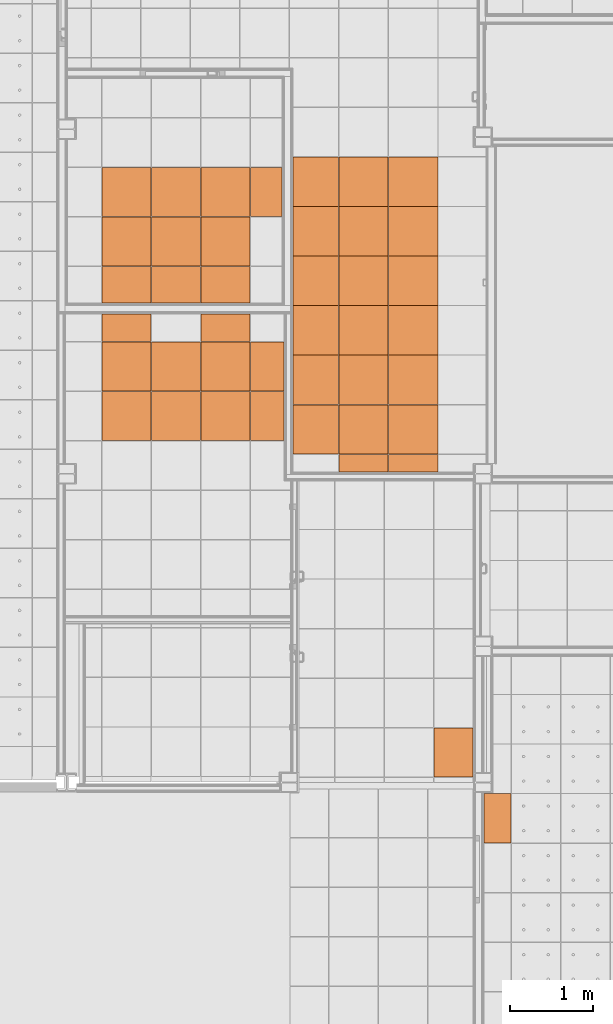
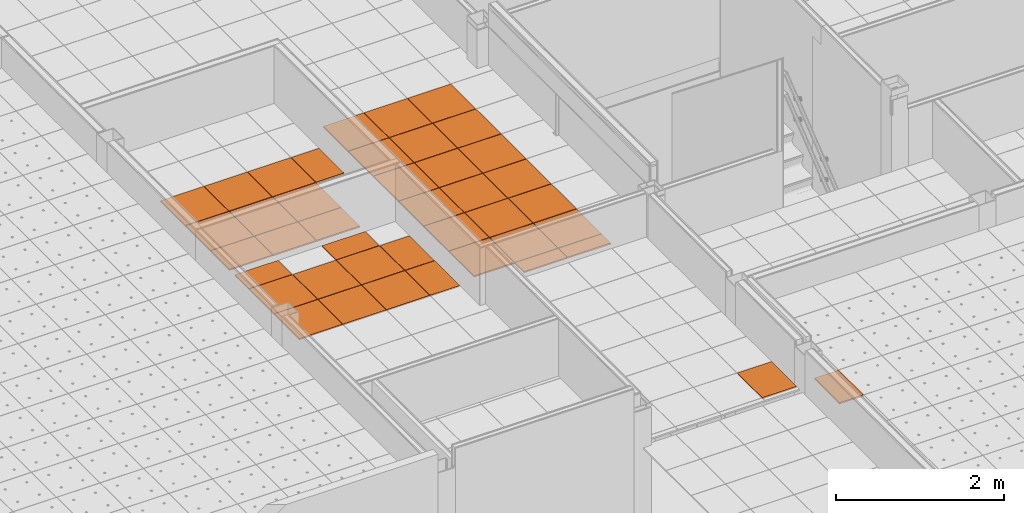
# One storey, part 255 of 338: 42 proxies, 5 elements without a shape of their own.
"""IFC2X3 building model written with IfcOpenShell, lengths in millimetres."""

from ifc_helpers import new_model, entity, si_unit, converted_unit, derived_unit, money_unit, direction, frame, origin_with_axes, place, context, subcontext, project, spatial, faceted_brep, source, transform, mapped, material, type_object, type_shapes, element, aggregate, save


model = new_model("IFC2X3")

# Units and contexts
model_context = context("Model", 3, precision=0.01, world=origin_with_axes(), true_north=direction((0.0, 1.0)))
plan_context = context("Plan", 3, precision=0.01, world=origin_with_axes(), true_north=direction((0.0, 1.0)))
body_context = subcontext(model_context, "Body", "Model", "MODEL_VIEW")
ifc_project = project(units=[si_unit("LENGTHUNIT", "METRE", prefix="MILLI"), si_unit("AREAUNIT", "SQUARE_METRE"), si_unit("VOLUMEUNIT", "CUBIC_METRE"), converted_unit("PLANEANGLEUNIT", "DEGREE", entity("IfcPlaneAngleMeasure", 0.0174532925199), si_unit("PLANEANGLEUNIT", "RADIAN"), dimensions=[0, 0, 0, 0, 0, 0, 0]), money_unit("EUR"), converted_unit("TIMEUNIT", "Year", entity("IfcTimeMeasure", 31556926.0), si_unit("TIMEUNIT", "SECOND"), dimensions=[0, 0, 1, 0, 0, 0, 0]), si_unit("MASSUNIT", "GRAM", prefix="KILO"), si_unit("THERMODYNAMICTEMPERATUREUNIT", "DEGREE_CELSIUS"), si_unit("LUMINOUSINTENSITYUNIT", "LUMEN"), si_unit("ENERGYUNIT", "JOULE", prefix="MEGA"), derived_unit("THERMALCONDUCTANCEUNIT", [(si_unit("POWERUNIT", "WATT"), 1), (si_unit("LENGTHUNIT", "METRE"), -1), (si_unit("THERMODYNAMICTEMPERATUREUNIT", "KELVIN"), -1)]), derived_unit("SPECIFICHEATCAPACITYUNIT", [(si_unit("ENERGYUNIT", "JOULE"), 1), (si_unit("MASSUNIT", "GRAM", prefix="KILO"), -1), (si_unit("THERMODYNAMICTEMPERATUREUNIT", "KELVIN"), -1)]), derived_unit("MASSDENSITYUNIT", [(si_unit("MASSUNIT", "GRAM", prefix="KILO"), 1), (si_unit("VOLUMEUNIT", "CUBIC_METRE"), -1)])], contexts=[model_context, plan_context])

# Site, building, storey
site_placement = place(None, origin_with_axes())
site = spatial("IfcSite", under=ifc_project, at=site_placement, Name="Fortuinstraat Woensdrecht", CompositionType="ELEMENT")
building_placement = place(site_placement, origin_with_axes())
building = spatial("IfcBuilding", under=site, at=building_placement, Name="IKC Fortuna", CompositionType="ELEMENT")
storey_placement = place(building_placement, origin_with_axes())
storey = spatial("IfcBuildingStorey", under=building, at=storey_placement, Name="00 begane grond", CompositionType="ELEMENT", Elevation=0.0)

# Covering, proxies
covering_type = type_object("IfcCoveringType", Name="Curtain Wall Type", PredefinedType="CEILING")
covering_1_placement = place(storey_placement, frame((20708.834778, 24017.7308613, 2810.0), z_axis=(0.0, 0.0, 1.0), x_axis=(1.0, 0.0, 0.0)))
covering_1 = element("IfcCovering", 1, at=covering_1_placement, inside=storey, type_object=covering_type, Name="45_Plafondafwerking_P02", PredefinedType="CEILING")
ifc_material = material(Name="Gipsplaat")
building_element_proxy_type_1 = type_object("IfcBuildingElementProxyType", Name="Distinct Panel 600 x 600 x 20", PredefinedType="NOTDEFINED")
shared_shape_1 = source(origin_with_axes(), body_context, "Body", "Brep", [
    faceted_brep([(2.49999999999, 2.5, -10.0), (597.5, 2.49999999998, -10.0), (597.5, 2.49999999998, 10.0), (2.49999999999, 2.5, 10.0), (2.50000000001, 597.5, -10.0), (597.5, 597.5, -10.0), (597.5, 597.5, 10.0), (2.50000000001, 597.5, 10.0)], [[[0, 1, 2, 3]], [[0, 4, 5, 1]], [[1, 5, 6, 2]], [[3, 2, 6, 7]], [[4, 0, 3, 7]], [[5, 4, 7, 6]]]),
])
proxy_1_placement = place(covering_1_placement, frame((1185.69944934, -679.565768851, 0.0), z_axis=(0.0, 0.0, 1.0), x_axis=(1.0, 0.0, 0.0)))
proxy_1 = element("IfcBuildingElementProxy", 2, at=proxy_1_placement, type_object=building_element_proxy_type_1, material=ifc_material, Name="__Panel-D", context=body_context, shape_type="MappedRepresentation", body=[
    mapped(shared_shape_1, transform((300.0, 300.0, 0.0), x_axis=(-1.0, 0.0, 0.0), y_axis=(0.0, -1.0, 0.0), z_axis=(0.0, 0.0, 1.0))),
])
proxy_2_placement = place(covering_1_placement, frame((585.699449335, -679.565768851, 0.0), z_axis=(0.0, 0.0, 1.0), x_axis=(1.0, 0.0, 0.0)))
proxy_2 = element("IfcBuildingElementProxy", 3, at=proxy_2_placement, type_object=building_element_proxy_type_1, material=ifc_material, Name="__Panel-D", context=body_context, shape_type="MappedRepresentation", body=[
    mapped(shared_shape_1, transform((300.0, 300.0, 0.0), x_axis=(-1.0, 0.0, 0.0), y_axis=(0.0, -1.0, 0.0), z_axis=(0.0, 0.0, 1.0))),
])
proxy_3_placement = place(covering_1_placement, frame((1185.69944934, -1279.56576885, 0.0), z_axis=(0.0, 0.0, 1.0), x_axis=(1.0, 0.0, 0.0)))
proxy_3 = element("IfcBuildingElementProxy", 4, at=proxy_3_placement, type_object=building_element_proxy_type_1, material=ifc_material, Name="__Panel-D", context=body_context, shape_type="MappedRepresentation", body=[
    mapped(shared_shape_1, transform((300.0, 300.0, 0.0), x_axis=(-1.0, 0.0, 0.0), y_axis=(0.0, -1.0, 0.0), z_axis=(0.0, 0.0, 1.0))),
])

covering_2_placement = place(storey_placement, frame((21294.5342274, 19421.5253195, 2810.0), z_axis=(0.0, 0.0, 1.0), x_axis=(1.0, 0.0, 0.0)))
covering_2 = element("IfcCovering", 5, at=covering_2_placement, inside=storey, type_object=covering_type, Name="45_Plafondafwerking_P02", PredefinedType="CEILING")
proxy_4_placement = place(covering_2_placement, frame((0.0, 1800.0, 0.0), z_axis=(0.0, 0.0, 1.0), x_axis=(1.0, 0.0, 0.0)))
proxy_4 = element("IfcBuildingElementProxy", 6, at=proxy_4_placement, type_object=building_element_proxy_type_1, material=ifc_material, Name="__Panel-D", context=body_context, shape_type="MappedRepresentation", body=[
    mapped(shared_shape_1, transform((300.0, 300.0, 0.0), x_axis=(-1.0, 0.0, 0.0), y_axis=(0.0, -1.0, 0.0), z_axis=(0.0, 0.0, 1.0))),
])
proxy_5_placement = place(covering_2_placement, frame((600.0, 1200.0, 0.0), z_axis=(0.0, 0.0, 1.0), x_axis=(1.0, 0.0, 0.0)))
proxy_5 = element("IfcBuildingElementProxy", 7, at=proxy_5_placement, type_object=building_element_proxy_type_1, material=ifc_material, Name="__Panel-D", context=body_context, shape_type="MappedRepresentation", body=[
    mapped(shared_shape_1, transform((300.0, 300.0, 0.0), x_axis=(-1.0, 0.0, 0.0), y_axis=(0.0, -1.0, 0.0), z_axis=(0.0, 0.0, 1.0))),
])
proxy_6_placement = place(covering_2_placement, frame((0.0, 1200.0, 0.0), z_axis=(0.0, 0.0, 1.0), x_axis=(1.0, 0.0, 0.0)))
proxy_6 = element("IfcBuildingElementProxy", 8, at=proxy_6_placement, type_object=building_element_proxy_type_1, material=ifc_material, Name="__Panel-D", context=body_context, shape_type="MappedRepresentation", body=[
    mapped(shared_shape_1, transform((300.0, 300.0, 0.0), x_axis=(-1.0, 0.0, 0.0), y_axis=(0.0, -1.0, 0.0), z_axis=(0.0, 0.0, 1.0))),
])
proxy_7_placement = place(covering_2_placement, frame((1200.0, 1800.0, 0.0), z_axis=(0.0, 0.0, 1.0), x_axis=(1.0, 0.0, 0.0)))
proxy_7 = element("IfcBuildingElementProxy", 9, at=proxy_7_placement, type_object=building_element_proxy_type_1, material=ifc_material, Name="__Panel-D", context=body_context, shape_type="MappedRepresentation", body=[
    mapped(shared_shape_1, transform((300.0, 300.0, 0.0), x_axis=(-1.0, 0.0, 0.0), y_axis=(0.0, -1.0, 0.0), z_axis=(0.0, 0.0, 1.0))),
])
proxy_8_placement = place(covering_2_placement, frame((600.0, 1800.0, 0.0), z_axis=(0.0, 0.0, 1.0), x_axis=(1.0, 0.0, 0.0)))
proxy_8 = element("IfcBuildingElementProxy", 10, at=proxy_8_placement, type_object=building_element_proxy_type_1, material=ifc_material, Name="__Panel-D", context=body_context, shape_type="MappedRepresentation", body=[
    mapped(shared_shape_1, transform((300.0, 300.0, 0.0), x_axis=(-1.0, 0.0, 0.0), y_axis=(0.0, -1.0, 0.0), z_axis=(0.0, 0.0, 1.0))),
])

# Proxy
shared_shape_2 = source(origin_with_axes(), body_context, "Body", "Brep", [
    faceted_brep([(2.5000069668, 2.4999963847, -10.0), (597.499995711, 2.50000275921, -10.0), (597.499995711, 2.50000275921, 10.0), (2.5000069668, 2.4999963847, 10.0), (2.50000214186, 597.499967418, -10.0), (597.499990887, 597.499973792, -10.0), (597.499990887, 597.499973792, 10.0), (2.50000214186, 597.499967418, 10.0)], [[[0, 1, 2, 3]], [[0, 4, 5, 1]], [[1, 5, 6, 2]], [[3, 2, 6, 7]], [[4, 0, 3, 7]], [[5, 4, 7, 6]]]),
])
proxy_9_placement = place(covering_1_placement, frame((585.699449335, -1279.56576885, 0.0), z_axis=(0.0, 0.0, 1.0), x_axis=(1.0, 0.0, 0.0)))
proxy_9 = element("IfcBuildingElementProxy", 11, at=proxy_9_placement, type_object=building_element_proxy_type_1, material=ifc_material, Name="__Panel-D", context=body_context, shape_type="MappedRepresentation", body=[
    mapped(shared_shape_2, transform((300.0, 300.0, 0.0), x_axis=(-1.0, 0.0, 0.0), y_axis=(0.0, -1.0, 0.0), z_axis=(0.0, 0.0, 1.0))),
])

proxy_10_placement = place(covering_1_placement, frame((1785.69944934, -1279.56576885, 0.0), z_axis=(0.0, 0.0, 1.0), x_axis=(1.0, 0.0, 0.0)))
proxy_10 = element("IfcBuildingElementProxy", 12, at=proxy_10_placement, type_object=building_element_proxy_type_1, material=ifc_material, Name="__Panel-D", context=body_context, shape_type="MappedRepresentation", body=[
    mapped(shared_shape_2, transform((300.0, 300.0, 0.0), x_axis=(-1.0, 0.0, 0.0), y_axis=(0.0, -1.0, 0.0), z_axis=(0.0, 0.0, 1.0))),
])

proxy_11_placement = place(covering_1_placement, frame((1785.69944934, -679.565768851, 0.0), z_axis=(0.0, 0.0, 1.0), x_axis=(1.0, 0.0, 0.0)))
proxy_11 = element("IfcBuildingElementProxy", 13, at=proxy_11_placement, type_object=building_element_proxy_type_1, material=ifc_material, Name="__Panel-D", context=body_context, shape_type="MappedRepresentation", body=[
    mapped(shared_shape_2, transform((300.0, 300.0, 0.0), x_axis=(-1.0, 0.0, 0.0), y_axis=(0.0, -1.0, 0.0), z_axis=(0.0, 0.0, 1.0))),
])

proxy_12_placement = place(covering_2_placement, frame((1200.0, 1200.0, 0.0), z_axis=(0.0, 0.0, 1.0), x_axis=(1.0, 0.0, 0.0)))
proxy_12 = element("IfcBuildingElementProxy", 14, at=proxy_12_placement, type_object=building_element_proxy_type_1, material=ifc_material, Name="__Panel-D", context=body_context, shape_type="MappedRepresentation", body=[
    mapped(shared_shape_2, transform((300.0, 300.0, 0.0), x_axis=(-1.0, 0.0, 0.0), y_axis=(0.0, -1.0, 0.0), z_axis=(0.0, 0.0, 1.0))),
])

# Covering, proxies
covering_3_placement = place(storey_placement, frame((21169.4446171, 27661.0834994, 3010.0), z_axis=(0.0, 0.0, 1.0), x_axis=(1.0, 0.0, 0.0)))
covering_3 = element("IfcCovering", 15, at=covering_3_placement, inside=storey, type_object=covering_type, Name="45_Plafondafwerking_P04", PredefinedType="CEILING")
shared_shape_3 = source(origin_with_axes(), body_context, "Body", "Brep", [
    faceted_brep([(-2.49999999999, 2.5, -10.0), (-2.49999999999, 2.5, 10.0), (-597.5, 2.49999999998, 10.0), (-597.5, 2.49999999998, -10.0), (-2.50000000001, 597.5, -10.0), (-2.50000000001, 597.5, 10.0), (-597.5, 597.5, 10.0), (-597.5, 597.5, -10.0)], [[[0, 1, 2, 3]], [[4, 5, 1, 0]], [[1, 5, 6, 2]], [[3, 2, 6, 7]], [[0, 3, 7, 4]], [[7, 6, 5, 4]]]),
])
type_shapes(building_element_proxy_type_1, [shared_shape_1, shared_shape_2, shared_shape_3])
proxy_13_placement = place(covering_3_placement, frame((3600.0, -6000.0, 1.36335387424e-10), z_axis=(0.0, 0.0, 1.0), x_axis=(1.0, 0.0, 0.0)))
proxy_13 = element("IfcBuildingElementProxy", 16, at=proxy_13_placement, type_object=building_element_proxy_type_1, material=ifc_material, Name="__Panel-D", context=body_context, shape_type="MappedRepresentation", body=[
    mapped(shared_shape_3, transform((-300.0, 300.0, 0.0), x_axis=(-1.0, 0.0, 0.0), y_axis=(0.0, -1.0, 0.0), z_axis=(0.0, 0.0, 1.0))),
])
proxy_14_placement = place(covering_3_placement, frame((3000.0, -6000.0, 1.16795462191e-10), z_axis=(0.0, 0.0, 1.0), x_axis=(1.0, 0.0, 0.0)))
proxy_14 = element("IfcBuildingElementProxy", 17, at=proxy_14_placement, type_object=building_element_proxy_type_1, material=ifc_material, Name="__Panel-D", context=body_context, shape_type="MappedRepresentation", body=[
    mapped(shared_shape_3, transform((-300.0, 300.0, 0.0), x_axis=(-1.0, 0.0, 0.0), y_axis=(0.0, -1.0, 0.0), z_axis=(0.0, 0.0, 1.0))),
])
proxy_15_placement = place(covering_3_placement, frame((3000.0, -6600.0, 1.16795462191e-10), z_axis=(0.0, 0.0, 1.0), x_axis=(1.0, 0.0, 0.0)))
proxy_15 = element("IfcBuildingElementProxy", 18, at=proxy_15_placement, type_object=building_element_proxy_type_1, material=ifc_material, Name="__Panel-D", context=body_context, shape_type="MappedRepresentation", body=[
    mapped(shared_shape_3, transform((-300.0, 300.0, 0.0), x_axis=(-1.0, 0.0, 0.0), y_axis=(0.0, -1.0, 0.0), z_axis=(0.0, 0.0, 1.0))),
])
proxy_16_placement = place(covering_3_placement, frame((3000.0, -5400.0, 1.16795462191e-10), z_axis=(0.0, 0.0, 1.0), x_axis=(1.0, 0.0, 0.0)))
proxy_16 = element("IfcBuildingElementProxy", 19, at=proxy_16_placement, type_object=building_element_proxy_type_1, material=ifc_material, Name="__Panel-D", context=body_context, shape_type="MappedRepresentation", body=[
    mapped(shared_shape_3, transform((-300.0, 300.0, 0.0), x_axis=(-1.0, 0.0, 0.0), y_axis=(0.0, -1.0, 0.0), z_axis=(0.0, 0.0, 1.0))),
])
proxy_17_placement = place(covering_3_placement, frame((3600.0, -6600.0, 1.36335387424e-10), z_axis=(0.0, 0.0, 1.0), x_axis=(1.0, 0.0, 0.0)))
proxy_17 = element("IfcBuildingElementProxy", 20, at=proxy_17_placement, type_object=building_element_proxy_type_1, material=ifc_material, Name="__Panel-D", context=body_context, shape_type="MappedRepresentation", body=[
    mapped(shared_shape_3, transform((-300.0, 300.0, 0.0), x_axis=(-1.0, 0.0, 0.0), y_axis=(0.0, -1.0, 0.0), z_axis=(0.0, 0.0, 1.0))),
])
proxy_18_placement = place(covering_3_placement, frame((3000.0, -4200.0, 1.16795462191e-10), z_axis=(0.0, 0.0, 1.0), x_axis=(1.0, 0.0, 0.0)))
proxy_18 = element("IfcBuildingElementProxy", 21, at=proxy_18_placement, type_object=building_element_proxy_type_1, material=ifc_material, Name="__Panel-D", context=body_context, shape_type="MappedRepresentation", body=[
    mapped(shared_shape_3, transform((-300.0, 300.0, 0.0), x_axis=(-1.0, 0.0, 0.0), y_axis=(0.0, -1.0, 0.0), z_axis=(0.0, 0.0, 1.0))),
])
proxy_19_placement = place(covering_3_placement, frame((3000.0, -7200.0, 1.16795462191e-10), z_axis=(0.0, 0.0, 1.0), x_axis=(1.0, 0.0, 0.0)))
proxy_19 = element("IfcBuildingElementProxy", 22, at=proxy_19_placement, type_object=building_element_proxy_type_1, material=ifc_material, Name="__Panel-D", context=body_context, shape_type="MappedRepresentation", body=[
    mapped(shared_shape_3, transform((-300.0, 300.0, 0.0), x_axis=(-1.0, 0.0, 0.0), y_axis=(0.0, -1.0, 0.0), z_axis=(0.0, 0.0, 1.0))),
])
proxy_20_placement = place(covering_3_placement, frame((3000.0, -4800.0, 1.16795462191e-10), z_axis=(0.0, 0.0, 1.0), x_axis=(1.0, 0.0, 0.0)))
proxy_20 = element("IfcBuildingElementProxy", 23, at=proxy_20_placement, type_object=building_element_proxy_type_1, material=ifc_material, Name="__Panel-D", context=body_context, shape_type="MappedRepresentation", body=[
    mapped(shared_shape_3, transform((-300.0, 300.0, 0.0), x_axis=(-1.0, 0.0, 0.0), y_axis=(0.0, -1.0, 0.0), z_axis=(0.0, 0.0, 1.0))),
])
proxy_21_placement = place(covering_3_placement, frame((3600.0, -5400.0, 1.36335387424e-10), z_axis=(0.0, 0.0, 1.0), x_axis=(1.0, 0.0, 0.0)))
proxy_21 = element("IfcBuildingElementProxy", 24, at=proxy_21_placement, type_object=building_element_proxy_type_1, material=ifc_material, Name="__Panel-D", context=body_context, shape_type="MappedRepresentation", body=[
    mapped(shared_shape_3, transform((-300.0, 300.0, 0.0), x_axis=(-1.0, 0.0, 0.0), y_axis=(0.0, -1.0, 0.0), z_axis=(0.0, 0.0, 1.0))),
])
proxy_22_placement = place(covering_3_placement, frame((3600.0, -7200.0, 1.36335387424e-10), z_axis=(0.0, 0.0, 1.0), x_axis=(1.0, 0.0, 0.0)))
proxy_22 = element("IfcBuildingElementProxy", 25, at=proxy_22_placement, type_object=building_element_proxy_type_1, material=ifc_material, Name="__Panel-D", context=body_context, shape_type="MappedRepresentation", body=[
    mapped(shared_shape_3, transform((-300.0, 300.0, 0.0), x_axis=(-1.0, 0.0, 0.0), y_axis=(0.0, -1.0, 0.0), z_axis=(0.0, 0.0, 1.0))),
])
proxy_23_placement = place(covering_3_placement, frame((3600.0, -4200.0, 1.36335387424e-10), z_axis=(0.0, 0.0, 1.0), x_axis=(1.0, 0.0, 0.0)))
proxy_23 = element("IfcBuildingElementProxy", 26, at=proxy_23_placement, type_object=building_element_proxy_type_1, material=ifc_material, Name="__Panel-D", context=body_context, shape_type="MappedRepresentation", body=[
    mapped(shared_shape_3, transform((-300.0, 300.0, 0.0), x_axis=(-1.0, 0.0, 0.0), y_axis=(0.0, -1.0, 0.0), z_axis=(0.0, 0.0, 1.0))),
])
proxy_24_placement = place(covering_3_placement, frame((3600.0, -4800.0, 1.36335387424e-10), z_axis=(0.0, 0.0, 1.0), x_axis=(1.0, 0.0, 0.0)))
proxy_24 = element("IfcBuildingElementProxy", 27, at=proxy_24_placement, type_object=building_element_proxy_type_1, material=ifc_material, Name="__Panel-D", context=body_context, shape_type="MappedRepresentation", body=[
    mapped(shared_shape_3, transform((-300.0, 300.0, 0.0), x_axis=(-1.0, 0.0, 0.0), y_axis=(0.0, -1.0, 0.0), z_axis=(0.0, 0.0, 1.0))),
])
building_element_proxy_type_2 = type_object("IfcBuildingElementProxyType", Name="Distinct Panel 562 x 600 x 20", PredefinedType="NOTDEFINED")
shared_shape_4 = source(origin_with_axes(), body_context, "Body", "Brep", [
    faceted_brep([(-40.990352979, 2.5, -10.0), (-40.990352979, 2.5, 10.0), (-597.5, 2.49999999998, 10.0), (-597.5, 2.49999999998, -10.0), (-40.990352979, 597.5, -10.0), (-40.990352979, 597.5, 10.0), (-597.5, 597.5, 10.0), (-597.5, 597.5, -10.0)], [[[0, 1, 2, 3]], [[4, 5, 1, 0]], [[1, 5, 6, 2]], [[3, 2, 6, 7]], [[0, 3, 7, 4]], [[7, 6, 5, 4]]]),
])
proxy_25_placement = place(covering_3_placement, frame((2419.24517739, -6600.0, 0.0), z_axis=(0.0, 0.0, 1.0), x_axis=(1.0, 0.0, 0.0)))
proxy_25 = element("IfcBuildingElementProxy", 28, at=proxy_25_placement, type_object=building_element_proxy_type_2, material=ifc_material, Name="__Panel-D", context=body_context, shape_type="MappedRepresentation", body=[
    mapped(shared_shape_4, transform((-319.245177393, 300.0, 0.0), x_axis=(-1.0, 0.0, 0.0), y_axis=(0.0, -1.0, 0.0), z_axis=(0.0, 0.0, 1.0))),
])
proxy_26_placement = place(covering_3_placement, frame((2419.24517739, -4200.0, 0.0), z_axis=(0.0, 0.0, 1.0), x_axis=(1.0, 0.0, 0.0)))
proxy_26 = element("IfcBuildingElementProxy", 29, at=proxy_26_placement, type_object=building_element_proxy_type_2, material=ifc_material, Name="__Panel-D", context=body_context, shape_type="MappedRepresentation", body=[
    mapped(shared_shape_4, transform((-319.245177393, 300.0, 0.0), x_axis=(-1.0, 0.0, 0.0), y_axis=(0.0, -1.0, 0.0), z_axis=(0.0, 0.0, 1.0))),
])
proxy_27_placement = place(covering_3_placement, frame((2419.24517739, -5400.0, 0.0), z_axis=(0.0, 0.0, 1.0), x_axis=(1.0, 0.0, 0.0)))
proxy_27 = element("IfcBuildingElementProxy", 30, at=proxy_27_placement, type_object=building_element_proxy_type_2, material=ifc_material, Name="__Panel-D", context=body_context, shape_type="MappedRepresentation", body=[
    mapped(shared_shape_4, transform((-319.245177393, 300.0, 0.0), x_axis=(-1.0, 0.0, 0.0), y_axis=(0.0, -1.0, 0.0), z_axis=(0.0, 0.0, 1.0))),
])
proxy_28_placement = place(covering_3_placement, frame((2419.24517739, -4800.0, 0.0), z_axis=(0.0, 0.0, 1.0), x_axis=(1.0, 0.0, 0.0)))
proxy_28 = element("IfcBuildingElementProxy", 31, at=proxy_28_placement, type_object=building_element_proxy_type_2, material=ifc_material, Name="__Panel-D", context=body_context, shape_type="MappedRepresentation", body=[
    mapped(shared_shape_4, transform((-319.245177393, 300.0, 0.0), x_axis=(-1.0, 0.0, 0.0), y_axis=(0.0, -1.0, 0.0), z_axis=(0.0, 0.0, 1.0))),
])
proxy_29_placement = place(covering_3_placement, frame((2419.24517739, -7200.0, 0.0), z_axis=(0.0, 0.0, 1.0), x_axis=(1.0, 0.0, 0.0)))
proxy_29 = element("IfcBuildingElementProxy", 32, at=proxy_29_placement, type_object=building_element_proxy_type_2, material=ifc_material, Name="__Panel-D", context=body_context, shape_type="MappedRepresentation", body=[
    mapped(shared_shape_4, transform((-319.245177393, 300.0, 0.0), x_axis=(-1.0, 0.0, 0.0), y_axis=(0.0, -1.0, 0.0), z_axis=(0.0, 0.0, 1.0))),
])
shared_shape_5 = source(origin_with_axes(), body_context, "Body", "Brep", [
    faceted_brep([(-40.990352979, 2.5, -10.0), (-40.990352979, 2.5, 10.0), (-597.5, 2.49999999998, 10.0), (-597.5, 2.49999999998, -10.0), (-40.990352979, 597.5, -10.0), (-40.990352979, 597.5, 10.0), (-597.5, 597.5, 10.0), (-597.5, 597.5, -10.0)], [[[0, 1, 2, 3]], [[4, 5, 1, 0]], [[1, 5, 6, 2]], [[3, 2, 6, 7]], [[0, 3, 7, 4]], [[7, 6, 5, 4]]]),
])
type_shapes(building_element_proxy_type_2, [shared_shape_4, shared_shape_5])
proxy_30_placement = place(covering_3_placement, frame((2419.24517739, -6000.0, 0.0), z_axis=(0.0, 0.0, 1.0), x_axis=(1.0, 0.0, 0.0)))
proxy_30 = element("IfcBuildingElementProxy", 33, at=proxy_30_placement, type_object=building_element_proxy_type_2, material=ifc_material, Name="__Panel-D", context=body_context, shape_type="MappedRepresentation", body=[
    mapped(shared_shape_5, transform((-319.245177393, 300.0, 0.0), x_axis=(-1.0, 0.0, 0.0), y_axis=(0.0, -1.0, 0.0), z_axis=(0.0, 0.0, 1.0))),
])
building_element_proxy_type_3 = type_object("IfcBuildingElementProxyType", Name="Distinct Panel 600 x 221 x 20", PredefinedType="NOTDEFINED")
shared_shape_6 = source(origin_with_axes(), body_context, "Body", "Brep", [
    faceted_brep([(-2.5, 2.50000210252, -10.0), (-2.5, 2.50000210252, 10.0), (-597.5, 2.5000021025, 10.0), (-597.5, 2.5000021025, -10.0), (-2.50000000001, 218.819095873, -10.0), (-2.50000000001, 218.819095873, 10.0), (-597.5, 218.819095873, 10.0), (-597.5, 218.819095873, -10.0)], [[[0, 1, 2, 3]], [[4, 5, 1, 0]], [[1, 5, 6, 2]], [[3, 2, 6, 7]], [[0, 3, 7, 4]], [[7, 6, 5, 4]]]),
])
type_shapes(building_element_proxy_type_3, [shared_shape_6])
proxy_31_placement = place(covering_3_placement, frame((3600.0, -7610.65954794, 1.36335387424e-10), z_axis=(0.0, 0.0, 1.0), x_axis=(1.0, 0.0, 0.0)))
proxy_31 = element("IfcBuildingElementProxy", 34, at=proxy_31_placement, type_object=building_element_proxy_type_3, material=ifc_material, Name="__Panel-D", context=body_context, shape_type="MappedRepresentation", body=[
    mapped(shared_shape_6, transform((-300.0, 110.659547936, 0.0), x_axis=(-1.0, 0.0, 0.0), y_axis=(0.0, -1.0, 0.0), z_axis=(0.0, 0.0, 1.0))),
])
proxy_32_placement = place(covering_3_placement, frame((3000.0, -7610.65954794, 1.16795462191e-10), z_axis=(0.0, 0.0, 1.0), x_axis=(1.0, 0.0, 0.0)))
proxy_32 = element("IfcBuildingElementProxy", 35, at=proxy_32_placement, type_object=building_element_proxy_type_3, material=ifc_material, Name="__Panel-D", context=body_context, shape_type="MappedRepresentation", body=[
    mapped(shared_shape_6, transform((-300.0, 110.659547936, 0.0), x_axis=(-1.0, 0.0, 0.0), y_axis=(0.0, -1.0, 0.0), z_axis=(0.0, 0.0, 1.0))),
])
aggregate(covering_3, [proxy_25, proxy_13, proxy_14, proxy_15, proxy_30, proxy_16, proxy_31, proxy_26, proxy_17, proxy_32, proxy_18, proxy_19, proxy_20, proxy_21, proxy_27, proxy_28, proxy_22, proxy_29, proxy_23, proxy_24])

# Proxy
building_element_proxy_type_4 = type_object("IfcBuildingElementProxyType", Name="Distinct Panel 600 x 450 x 20", PredefinedType="NOTDEFINED")
shared_shape_7 = source(origin_with_axes(), body_context, "Body", "Brep", [
    faceted_brep([(2.49999999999, 2.49999806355, -10.0), (597.5, 2.49999806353, -10.0), (597.5, 2.49999806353, 10.0), (2.49999999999, 2.49999806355, 10.0), (2.5, 447.525899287, -10.0), (597.5, 447.525899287, -10.0), (597.5, 447.525899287, 10.0), (2.5, 447.525899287, 10.0)], [[[0, 1, 2, 3]], [[0, 4, 5, 1]], [[1, 5, 6, 2]], [[3, 2, 6, 7]], [[4, 0, 3, 7]], [[5, 4, 7, 6]]]),
])
type_shapes(building_element_proxy_type_4, [shared_shape_7])
proxy_33_placement = place(covering_1_placement, frame((1785.69944934, -1804.57871849, 0.0), z_axis=(0.0, 0.0, 1.0), x_axis=(1.0, 0.0, 0.0)))
proxy_33 = element("IfcBuildingElementProxy", 36, at=proxy_33_placement, type_object=building_element_proxy_type_4, material=ifc_material, Name="__Panel-D", context=body_context, shape_type="MappedRepresentation", body=[
    mapped(shared_shape_7, transform((300.0, 225.012949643, 0.0), x_axis=(-1.0, 0.0, 0.0), y_axis=(0.0, -1.0, 0.0), z_axis=(0.0, 0.0, 1.0))),
])

proxy_34_placement = place(covering_1_placement, frame((585.699449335, -1804.57871849, 0.0), z_axis=(0.0, 0.0, 1.0), x_axis=(1.0, 0.0, 0.0)))
proxy_34 = element("IfcBuildingElementProxy", 37, at=proxy_34_placement, type_object=building_element_proxy_type_4, material=ifc_material, Name="__Panel-D", context=body_context, shape_type="MappedRepresentation", body=[
    mapped(shared_shape_7, transform((300.0, 225.012949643, 0.0), x_axis=(-1.0, 0.0, 0.0), y_axis=(0.0, -1.0, 0.0), z_axis=(0.0, 0.0, 1.0))),
])

proxy_35_placement = place(covering_1_placement, frame((1185.69944934, -1804.57871849, 0.0), z_axis=(0.0, 0.0, 1.0), x_axis=(1.0, 0.0, 0.0)))
proxy_35 = element("IfcBuildingElementProxy", 38, at=proxy_35_placement, type_object=building_element_proxy_type_4, material=ifc_material, Name="__Panel-D", context=body_context, shape_type="MappedRepresentation", body=[
    mapped(shared_shape_7, transform((300.0, 225.012949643, 0.0), x_axis=(-1.0, 0.0, 0.0), y_axis=(0.0, -1.0, 0.0), z_axis=(0.0, 0.0, 1.0))),
])

building_element_proxy_type_5 = type_object("IfcBuildingElementProxyType", Name="Distinct Panel 388 x 600 x 20", PredefinedType="NOTDEFINED")
shared_shape_8 = source(origin_with_axes(), body_context, "Body", "Brep", [
    faceted_brep([(214.099232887, 2.5, -10.0), (597.5, 2.49999999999, -10.0), (597.5, 2.49999999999, 10.0), (214.099232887, 2.5, 10.0), (214.099232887, 597.5, -10.0), (597.5, 597.5, -10.0), (597.5, 597.5, 10.0), (214.099232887, 597.5, 10.0)], [[[0, 1, 2, 3]], [[0, 4, 5, 1]], [[1, 5, 6, 2]], [[3, 2, 6, 7]], [[4, 0, 3, 7]], [[5, 4, 7, 6]]]),
])
type_shapes(building_element_proxy_type_5, [shared_shape_8])
proxy_36_placement = place(covering_1_placement, frame((2279.89983352, -679.565768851, 0.0), z_axis=(0.0, 0.0, 1.0), x_axis=(1.0, 0.0, 0.0)))
proxy_36 = element("IfcBuildingElementProxy", 39, at=proxy_36_placement, type_object=building_element_proxy_type_5, material=ifc_material, Name="__Panel-D", context=body_context, shape_type="MappedRepresentation", body=[
    mapped(shared_shape_8, transform((405.799615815, 300.0, 0.0), x_axis=(-1.0, 0.0, 0.0), y_axis=(0.0, -1.0, 0.0), z_axis=(0.0, 0.0, 1.0))),
])

aggregate(covering_1, [proxy_33, proxy_36, proxy_9, proxy_1, proxy_2, proxy_3, proxy_10, proxy_11, proxy_34, proxy_35])

building_element_proxy_type_6 = type_object("IfcBuildingElementProxyType", Name="Distinct Panel 413 x 600 x 20", PredefinedType="NOTDEFINED")
shared_shape_9 = source(origin_with_axes(), body_context, "Body", "Brep", [
    faceted_brep([(189.099277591, 2.5, -10.0), (597.5, 2.49999999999, -10.0), (597.5, 2.49999999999, 10.0), (189.099277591, 2.5, 10.0), (189.099277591, 597.5, -10.0), (597.5, 597.5, -10.0), (597.5, 597.5, 10.0), (189.099277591, 597.5, 10.0)], [[[0, 1, 2, 3]], [[0, 4, 5, 1]], [[1, 5, 6, 2]], [[3, 2, 6, 7]], [[4, 0, 3, 7]], [[5, 4, 7, 6]]]),
])
type_shapes(building_element_proxy_type_6, [shared_shape_9])
proxy_37_placement = place(covering_2_placement, frame((1706.7003634, 1200.0, 0.0), z_axis=(0.0, 0.0, 1.0), x_axis=(1.0, 0.0, 0.0)))
proxy_37 = element("IfcBuildingElementProxy", 40, at=proxy_37_placement, type_object=building_element_proxy_type_6, material=ifc_material, Name="__Panel-D", context=body_context, shape_type="MappedRepresentation", body=[
    mapped(shared_shape_9, transform((393.299636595, 300.0, 0.0), x_axis=(-1.0, 0.0, 0.0), y_axis=(0.0, -1.0, 0.0), z_axis=(0.0, 0.0, 1.0))),
])

proxy_38_placement = place(covering_2_placement, frame((1706.70036816, 1800.0, 0.0), z_axis=(0.0, 0.0, 1.0), x_axis=(1.0, 0.0, 0.0)))
proxy_38 = element("IfcBuildingElementProxy", 41, at=proxy_38_placement, type_object=building_element_proxy_type_6, material=ifc_material, Name="__Panel-D", context=body_context, shape_type="MappedRepresentation", body=[
    mapped(shared_shape_9, transform((393.299631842, 300.0, 0.0), x_axis=(-1.0, 0.0, 0.0), y_axis=(0.0, -1.0, 0.0), z_axis=(0.0, 0.0, 1.0))),
])

building_element_proxy_type_7 = type_object("IfcBuildingElementProxyType", Name="Distinct Panel 600 x 342 x 20", PredefinedType="NOTDEFINED")
shared_shape_10 = source(origin_with_axes(), body_context, "Body", "Brep", [
    faceted_brep([(2.5, 260.886158, -10.0), (597.5, 260.886158, -10.0), (597.5, 260.886158, 10.0), (2.5, 260.886158, 10.0), (2.50000000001, 597.5, -10.0), (597.5, 597.5, -10.0), (597.5, 597.5, 10.0), (2.50000000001, 597.5, 10.0)], [[[0, 1, 2, 3]], [[0, 4, 5, 1]], [[1, 5, 6, 2]], [[3, 2, 6, 7]], [[4, 0, 3, 7]], [[5, 4, 7, 6]]]),
])
type_shapes(building_element_proxy_type_7, [shared_shape_10])
proxy_39_placement = place(covering_2_placement, frame((0.0, 2270.80692216, 0.0), z_axis=(0.0, 0.0, 1.0), x_axis=(1.0, 0.0, 0.0)))
proxy_39 = element("IfcBuildingElementProxy", 42, at=proxy_39_placement, type_object=building_element_proxy_type_7, material=ifc_material, Name="__Panel-D", context=body_context, shape_type="MappedRepresentation", body=[
    mapped(shared_shape_10, transform((300.0, 429.193077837, 0.0), x_axis=(-1.0, 0.0, 0.0), y_axis=(0.0, -1.0, 0.0), z_axis=(0.0, 0.0, 1.0))),
])

proxy_40_placement = place(covering_2_placement, frame((1200.0, 2270.80692216, 0.0), z_axis=(0.0, 0.0, 1.0), x_axis=(1.0, 0.0, 0.0)))
proxy_40 = element("IfcBuildingElementProxy", 43, at=proxy_40_placement, type_object=building_element_proxy_type_7, material=ifc_material, Name="__Panel-D", context=body_context, shape_type="MappedRepresentation", body=[
    mapped(shared_shape_10, transform((300.0, 429.193077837, 0.0), x_axis=(-1.0, 0.0, 0.0), y_axis=(0.0, -1.0, 0.0), z_axis=(0.0, 0.0, 1.0))),
])

aggregate(covering_2, [proxy_37, proxy_4, proxy_5, proxy_6, proxy_7, proxy_8, proxy_39, proxy_12, proxy_40, proxy_38])

# Covering, proxy
covering_4_placement = place(storey_placement, frame((31656.9226967, 15748.5304598, 3210.0), z_axis=(0.0, 0.0, 1.0), x_axis=(1.0, 0.0, 0.0)))
covering_4 = element("IfcCovering", 44, at=covering_4_placement, inside=storey, type_object=covering_type, Name="45_Plafondafwerking_P01", PredefinedType="CEILING")
building_element_proxy_type_8 = type_object("IfcBuildingElementProxyType", Name="334 x 600 x 20", PredefinedType="NOTDEFINED")
shared_shape_11 = source(origin_with_axes(), body_context, "Body", "Brep", [
    faceted_brep([(2.50000102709, 2.5, -10.0), (331.487662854, 2.49999999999, -10.0), (331.487662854, 2.49999999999, 10.0), (2.50000102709, 2.5, 10.0), (2.50000102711, 597.5, -10.0), (331.487662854, 597.5, -10.0), (331.487662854, 597.5, 10.0), (2.50000102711, 597.5, 10.0)], [[[0, 1, 2, 3]], [[0, 4, 5, 1]], [[1, 5, 6, 2]], [[3, 2, 6, 7]], [[4, 0, 3, 7]], [[5, 4, 7, 6]]]),
])
type_shapes(building_element_proxy_type_8, [shared_shape_11])
proxy_41_placement = place(covering_4_placement, frame((-5866.99383143, -1.56319401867e-10, 2.88213897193e-10), z_axis=(0.0, 0.0, 1.0), x_axis=(1.0, 0.0, 0.0)))
proxy_41 = element("IfcBuildingElementProxy", 45, at=proxy_41_placement, type_object=building_element_proxy_type_8, material=ifc_material, Name="__600x627 Rockfon Krios", context=body_context, shape_type="MappedRepresentation", body=[
    mapped(shared_shape_11, transform((166.993831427, 300.0, 0.0), x_axis=(-1.0, 0.0, 0.0), y_axis=(0.0, -1.0, 0.0), z_axis=(0.0, 0.0, 1.0))),
])
aggregate(covering_4, [proxy_41])

covering_5_placement = place(storey_placement, frame((25258.7056243, 17147.3582181, 3010.0), z_axis=(0.0, 0.0, 1.0), x_axis=(1.0, 0.0, 0.0)))
covering_5 = element("IfcCovering", 46, at=covering_5_placement, inside=storey, type_object=covering_type, Name="45_Plafondafwerking_P04", PredefinedType="CEILING")
building_element_proxy_type_9 = type_object("IfcBuildingElementProxyType", Name="Distinct Panel 478 x 600 x 20", PredefinedType="NOTDEFINED")
shared_shape_12 = source(origin_with_axes(), body_context, "Body", "Brep", [
    faceted_brep([(-2.50000397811, 2.5, -10.0), (-2.50000397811, 2.5, 10.0), (-475.958688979, 2.49999999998, 10.0), (-475.958688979, 2.49999999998, -10.0), (-2.50000397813, 597.5, -10.0), (-2.50000397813, 597.5, 10.0), (-475.958688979, 597.5, 10.0), (-475.958688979, 597.5, -10.0)], [[[0, 1, 2, 3]], [[4, 5, 1, 0]], [[1, 5, 6, 2]], [[3, 2, 6, 7]], [[0, 3, 7, 4]], [[7, 6, 5, 4]]]),
])
type_shapes(building_element_proxy_type_9, [shared_shape_12])
proxy_42_placement = place(covering_5_placement, frame((-9.4868113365e-08, -600.0, 0.0), z_axis=(0.0, 0.0, 1.0), x_axis=(1.0, 0.0, 0.0)))
proxy_42 = element("IfcBuildingElementProxy", 47, at=proxy_42_placement, type_object=building_element_proxy_type_9, material=ifc_material, Name="__Panel-D", context=body_context, shape_type="MappedRepresentation", body=[
    mapped(shared_shape_12, transform((-239.229344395, 300.0, 0.0), x_axis=(-1.0, 0.0, 0.0), y_axis=(0.0, -1.0, 0.0), z_axis=(0.0, 0.0, 1.0))),
])
aggregate(covering_5, [proxy_42])

save(model, "model.ifc")
